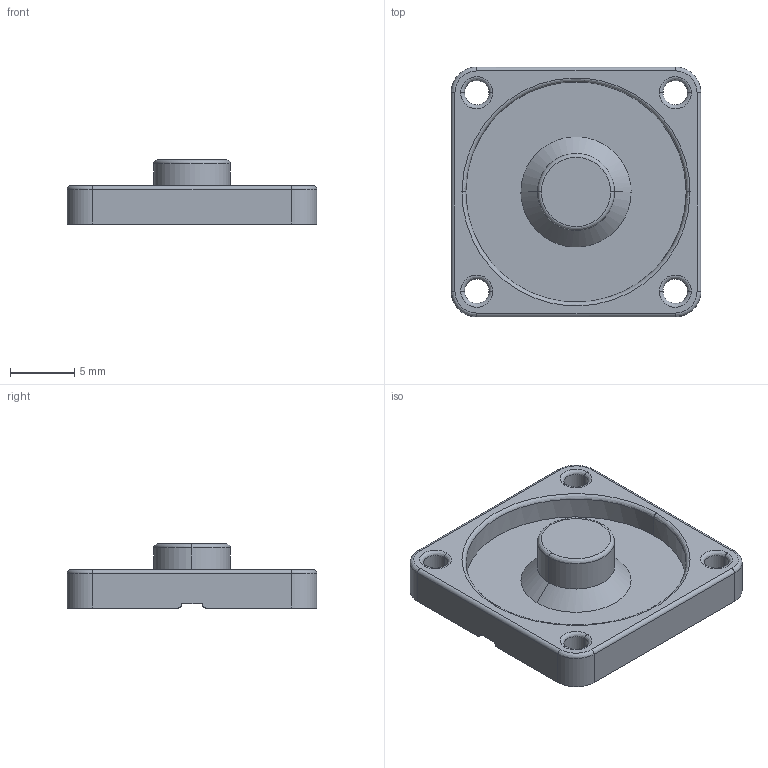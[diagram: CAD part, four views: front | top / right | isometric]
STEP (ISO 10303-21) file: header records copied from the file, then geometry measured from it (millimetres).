
FILE_DESCRIPTION(/* description */ (''),/* implementation_level */ '2;1');
FILE_NAME(/* name */ 'trigger pad',/* time_stamp */ '2026-03-20T20:03:53+09:00',/* author */ (''),/* organization */ (''),/* preprocessor_version */ 'ST-DEVELOPER v16.5',/* originating_system */ '',/* authorisation */ '');
FILE_SCHEMA (('CONFIG_CONTROL_DESIGN'));
Length unit declared in the file: millimetre
Products named in the file (1): Document
Bounding box: 19.5 x 19.5 x 5 mm (x, y, z)
Volume: 677.2 mm3; surface area: 1216.4 mm2
Topology: 1 solids, 1 shells, 83 faces, 198 edges, 120 vertices
Faces by surface type: bspline 34, cylinder 32, plane 17
Entity records: 2534 total; most frequent: CARTESIAN_POINT 1255, ORIENTED_EDGE 396, EDGE_CURVE 198, VERTEX_POINT 120, EDGE_LOOP 94, ADVANCED_FACE 83, FACE_OUTER_BOUND 83, B_SPLINE_CURVE_WITH_KNOTS 55
